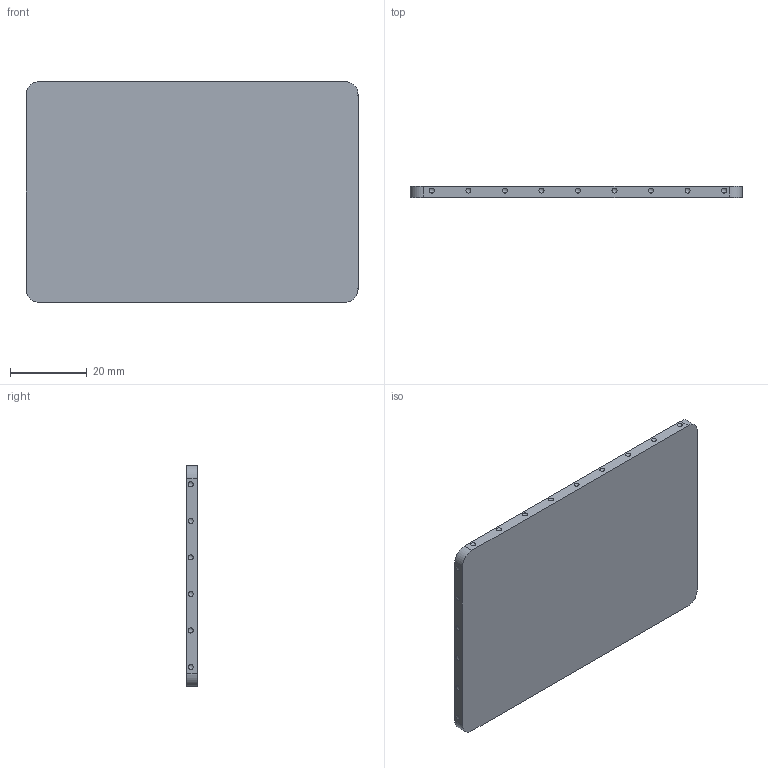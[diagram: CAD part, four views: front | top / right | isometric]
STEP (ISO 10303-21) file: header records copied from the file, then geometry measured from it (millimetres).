
FILE_DESCRIPTION(/* description */ (''),/* implementation_level */ '2;1');
FILE_NAME(/* name */ 'TopCustomBlank.step',/* time_stamp */ '2023-10-21T15:46:55+02:00',/* author */ (''),/* organization */ (''),/* preprocessor_version */ 'ST-DEVELOPER v20',/* originating_system */ 'Autodesk Translation Framework v12.14.0.127',/* authorisation */ '');
FILE_SCHEMA (('AUTOMOTIVE_DESIGN { 1 0 10303 214 3 1 1 }'));
Length unit declared in the file: millimetre
Products named in the file (1): TopCustomBlank
Bounding box: 86.6 x 2.85 x 57.62 mm (x, y, z)
Volume: 14165.8 mm3; surface area: 10776.7 mm2
Topology: 1 solids, 1 shells, 41 faces, 62 edges, 50 vertices
Faces by surface type: sphere 26, plane 6, cylinder 5, bspline 4
Entity records: 1485 total; most frequent: CARTESIAN_POINT 680, DIRECTION 162, ORIENTED_EDGE 124, AXIS2_PLACEMENT_3D 72, EDGE_LOOP 68, EDGE_CURVE 62, VERTEX_POINT 50, FACE_OUTER_BOUND 41
